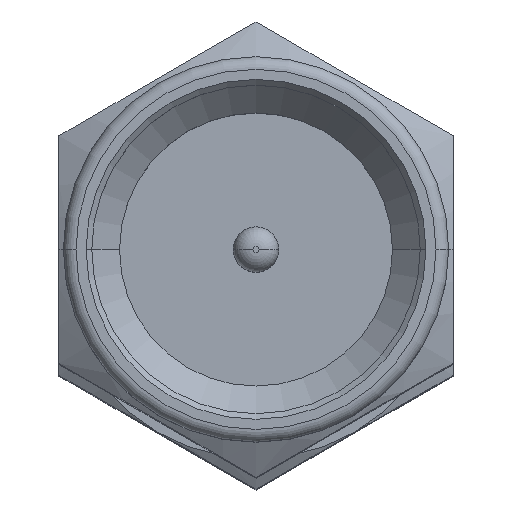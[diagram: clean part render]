
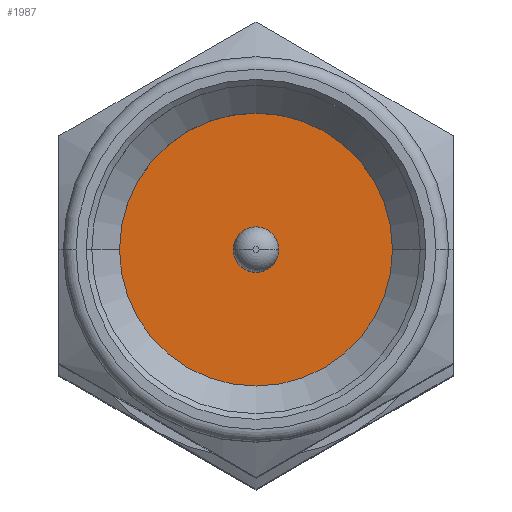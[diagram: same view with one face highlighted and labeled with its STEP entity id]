
A CAD part, top view. The second image highlights one B-rep face of the part: STEP entity #1987.
In plain terms, the highlighted planar face has unit normal (0, 0, 1).
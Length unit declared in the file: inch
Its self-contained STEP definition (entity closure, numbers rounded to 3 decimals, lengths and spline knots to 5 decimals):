
#497 = DIRECTION ( 'NONE',  ( 0., 0., 1. ) ) ;
#1183 = DIRECTION ( 'NONE',  ( 0., 0., 1. ) ) ;
#1274 = ORIENTED_EDGE ( 'NONE', *, *, #3439, .T. ) ;
#1361 = AXIS2_PLACEMENT_3D ( 'NONE', #6455, #2748, #5454 ) ;
#1378 = EDGE_LOOP ( 'NONE', ( #2253, #3544 ) ) ;
#1590 = CARTESIAN_POINT ( 'NONE',  ( 0.10805, 0., 0.32606 ) ) ;
#1987 = ADVANCED_FACE ( 'NONE', ( #4403, #2742 ), #4900, .T. ) ;
#2063 = CARTESIAN_POINT ( 'NONE',  ( 0., 0., 0.32606 ) ) ;
#2253 = ORIENTED_EDGE ( 'NONE', *, *, #5946, .F. ) ;
#2554 = CARTESIAN_POINT ( 'NONE',  ( 0.018, 0., 0.32606 ) ) ;
#2606 = EDGE_CURVE ( 'NONE', #6016, #3941, #6740, .T. ) ;
#2742 = FACE_OUTER_BOUND ( 'NONE', #4128, .T. ) ;
#2748 = DIRECTION ( 'NONE',  ( 0., 0., 1. ) ) ;
#2824 = DIRECTION ( 'NONE',  ( 0., 0., 1. ) ) ;
#2879 = EDGE_CURVE ( 'NONE', #3950, #6531, #3050, .T. ) ;
#3022 = ORIENTED_EDGE ( 'NONE', *, *, #2879, .T. ) ;
#3050 = CIRCLE ( 'NONE', #4716, 0.10805 ) ;
#3414 = AXIS2_PLACEMENT_3D ( 'NONE', #5738, #497, #5683 ) ;
#3436 = CIRCLE ( 'NONE', #4035, 0.018 ) ;
#3439 = EDGE_CURVE ( 'NONE', #6531, #3950, #6247, .T. ) ;
#3544 = ORIENTED_EDGE ( 'NONE', *, *, #2606, .F. ) ;
#3612 = DIRECTION ( 'NONE',  ( 0., 0., 1. ) ) ;
#3941 = VERTEX_POINT ( 'NONE', #5737 ) ;
#3950 = VERTEX_POINT ( 'NONE', #1590 ) ;
#4035 = AXIS2_PLACEMENT_3D ( 'NONE', #2063, #3612, #6742 ) ;
#4128 = EDGE_LOOP ( 'NONE', ( #1274, #3022 ) ) ;
#4276 = CARTESIAN_POINT ( 'NONE',  ( -0.10805, 0., 0.32606 ) ) ;
#4335 = DIRECTION ( 'NONE',  ( 1., 0., 0. ) ) ;
#4403 = FACE_BOUND ( 'NONE', #1378, .T. ) ;
#4501 = AXIS2_PLACEMENT_3D ( 'NONE', #5463, #2824, #4335 ) ;
#4716 = AXIS2_PLACEMENT_3D ( 'NONE', #6501, #1183, #4883 ) ;
#4883 = DIRECTION ( 'NONE',  ( 1., 0., 0. ) ) ;
#4900 = PLANE ( 'NONE',  #4501 ) ;
#5454 = DIRECTION ( 'NONE',  ( 1., 0., 0. ) ) ;
#5463 = CARTESIAN_POINT ( 'NONE',  ( 0., 0., 0.32606 ) ) ;
#5683 = DIRECTION ( 'NONE',  ( 1., 0., 0. ) ) ;
#5737 = CARTESIAN_POINT ( 'NONE',  ( -0.018, 0., 0.32606 ) ) ;
#5738 = CARTESIAN_POINT ( 'NONE',  ( 0., 0., 0.32606 ) ) ;
#5946 = EDGE_CURVE ( 'NONE', #3941, #6016, #3436, .T. ) ;
#6016 = VERTEX_POINT ( 'NONE', #2554 ) ;
#6247 = CIRCLE ( 'NONE', #1361, 0.10805 ) ;
#6455 = CARTESIAN_POINT ( 'NONE',  ( 0., 0., 0.32606 ) ) ;
#6501 = CARTESIAN_POINT ( 'NONE',  ( 0., 0., 0.32606 ) ) ;
#6531 = VERTEX_POINT ( 'NONE', #4276 ) ;
#6740 = CIRCLE ( 'NONE', #3414, 0.018 ) ;
#6742 = DIRECTION ( 'NONE',  ( 1., 0., 0. ) ) ;
